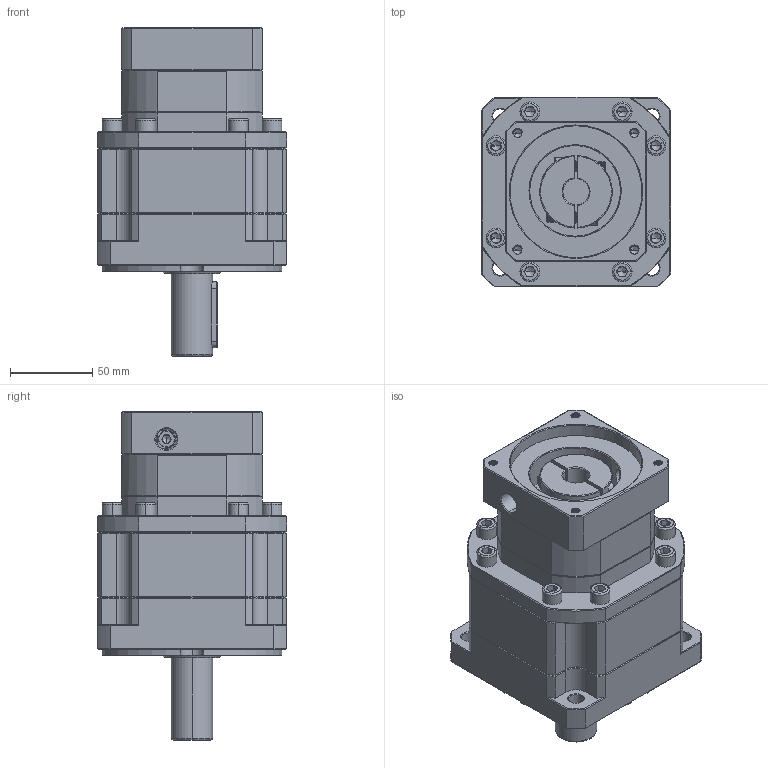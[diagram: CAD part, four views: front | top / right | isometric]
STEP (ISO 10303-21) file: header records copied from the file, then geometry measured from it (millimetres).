
FILE_DESCRIPTION (( 'STEP AP214' ), '1' );
FILE_NAME ('ZB115A-D25-L2-16-80-100-M6.step', '2023-03-03T09:52:03', ( '' ), ( 'Microsoft' ), 'SwSTEP 2.0', 'SolidWorks 2016', '' );
FILE_SCHEMA (( 'AUTOMOTIVE_DESIGN' ));
Length unit declared in the file: millimetre
Products named in the file (1): ZB115A-D25-L2-16-80-100-M6
Bounding box: 115 x 115 x 199 mm (x, y, z)
Volume: 1351899.1 mm3; surface area: 132902.5 mm2
Topology: 5 solids, 6 shells, 2133 faces, 5501 edges, 3465 vertices
Faces by surface type: plane 1010, cylinder 425, cone 354, bspline 329, torus 15
Entity records: 112227 total; most frequent: CARTESIAN_POINT 39792, ORIENTED_EDGE 10926, DIRECTION 8953, EDGE_CURVE 5463, VERTEX_POINT 3465, LINE 3415, VECTOR 3415, AXIS2_PLACEMENT_3D 2769
